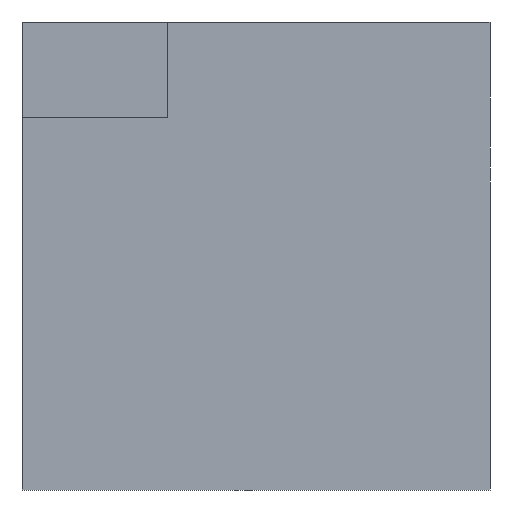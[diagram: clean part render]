
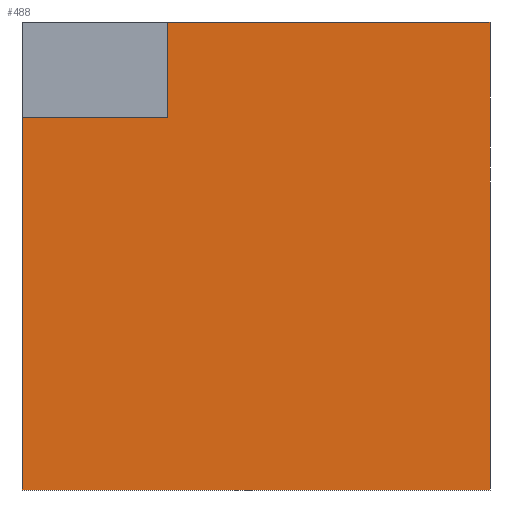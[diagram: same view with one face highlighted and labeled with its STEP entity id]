
A CAD part, front view. The second image highlights one B-rep face of the part: STEP entity #488.
In plain terms, the highlighted planar face has unit normal (0, -1, 0).
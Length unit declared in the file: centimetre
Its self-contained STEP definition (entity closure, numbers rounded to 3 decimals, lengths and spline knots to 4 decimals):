
#55 = VERTEX_POINT ( 'NONE', #486 ) ;
#60 = ORIENTED_EDGE ( 'NONE', *, *, #417, .T. ) ;
#75 = DIRECTION ( 'NONE',  ( 0., 0., -1. ) ) ;
#80 = CARTESIAN_POINT ( 'NONE',  ( 311.1956, 0., 1000. ) ) ;
#90 = VECTOR ( 'NONE', #75, 100. ) ;
#116 = ORIENTED_EDGE ( 'NONE', *, *, #626, .F. ) ;
#121 = DIRECTION ( 'NONE',  ( 0., 1., 0. ) ) ;
#126 = VERTEX_POINT ( 'NONE', #556 ) ;
#165 = VECTOR ( 'NONE', #538, 100. ) ;
#213 = VERTEX_POINT ( 'NONE', #420 ) ;
#221 = LINE ( 'NONE', #316, #90 ) ;
#233 = CARTESIAN_POINT ( 'NONE',  ( 0., 0., 0. ) ) ;
#238 = CARTESIAN_POINT ( 'NONE',  ( 311.1956, 0., 796.4386 ) ) ;
#250 = CARTESIAN_POINT ( 'NONE',  ( 0., 0., 796.4386 ) ) ;
#254 = CARTESIAN_POINT ( 'NONE',  ( 0., 0., 0. ) ) ;
#257 = ORIENTED_EDGE ( 'NONE', *, *, #448, .F. ) ;
#260 = CARTESIAN_POINT ( 'NONE',  ( 311.1956, 0., 796.4386 ) ) ;
#269 = EDGE_CURVE ( 'NONE', #524, #126, #554, .T. ) ;
#272 = FACE_OUTER_BOUND ( 'NONE', #465, .T. ) ;
#275 = DIRECTION ( 'NONE',  ( 0., 0., 1. ) ) ;
#278 = ORIENTED_EDGE ( 'NONE', *, *, #269, .T. ) ;
#302 = EDGE_CURVE ( 'NONE', #55, #605, #598, .T. ) ;
#305 = DIRECTION ( 'NONE',  ( 1., 0., 0. ) ) ;
#316 = CARTESIAN_POINT ( 'NONE',  ( 0., 0., 1000. ) ) ;
#318 = LINE ( 'NONE', #615, #385 ) ;
#334 = ORIENTED_EDGE ( 'NONE', *, *, #423, .F. ) ;
#373 = PLANE ( 'NONE',  #473 ) ;
#385 = VECTOR ( 'NONE', #460, 100. ) ;
#392 = VECTOR ( 'NONE', #479, 100. ) ;
#412 = VERTEX_POINT ( 'NONE', #80 ) ;
#417 = EDGE_CURVE ( 'NONE', #55, #524, #221, .T. ) ;
#420 = CARTESIAN_POINT ( 'NONE',  ( 1000., 0., 1000. ) ) ;
#421 = LINE ( 'NONE', #260, #434 ) ;
#423 = EDGE_CURVE ( 'NONE', #605, #412, #421, .T. ) ;
#430 = LINE ( 'NONE', #487, #392 ) ;
#434 = VECTOR ( 'NONE', #275, 100. ) ;
#448 = EDGE_CURVE ( 'NONE', #412, #213, #318, .T. ) ;
#460 = DIRECTION ( 'NONE',  ( 1., 0., 0. ) ) ;
#465 = EDGE_LOOP ( 'NONE', ( #257, #334, #616, #60, #278, #116 ) ) ;
#473 = AXIS2_PLACEMENT_3D ( 'NONE', #568, #121, #476 ) ;
#476 = DIRECTION ( 'NONE',  ( 0., 0., 1. ) ) ;
#479 = DIRECTION ( 'NONE',  ( 0., 0., -1. ) ) ;
#486 = CARTESIAN_POINT ( 'NONE',  ( 0., 0., 796.4386 ) ) ;
#487 = CARTESIAN_POINT ( 'NONE',  ( 1000., 0., 1000. ) ) ;
#488 = ADVANCED_FACE ( 'NONE', ( #272 ), #373, .F. ) ;
#524 = VERTEX_POINT ( 'NONE', #233 ) ;
#538 = DIRECTION ( 'NONE',  ( 1., 0., 0. ) ) ;
#554 = LINE ( 'NONE', #254, #562 ) ;
#556 = CARTESIAN_POINT ( 'NONE',  ( 1000., 0., 0. ) ) ;
#562 = VECTOR ( 'NONE', #305, 100. ) ;
#568 = CARTESIAN_POINT ( 'NONE',  ( 0., 0., 1000. ) ) ;
#598 = LINE ( 'NONE', #250, #165 ) ;
#605 = VERTEX_POINT ( 'NONE', #238 ) ;
#615 = CARTESIAN_POINT ( 'NONE',  ( 0., 0., 1000. ) ) ;
#616 = ORIENTED_EDGE ( 'NONE', *, *, #302, .F. ) ;
#626 = EDGE_CURVE ( 'NONE', #213, #126, #430, .T. ) ;
